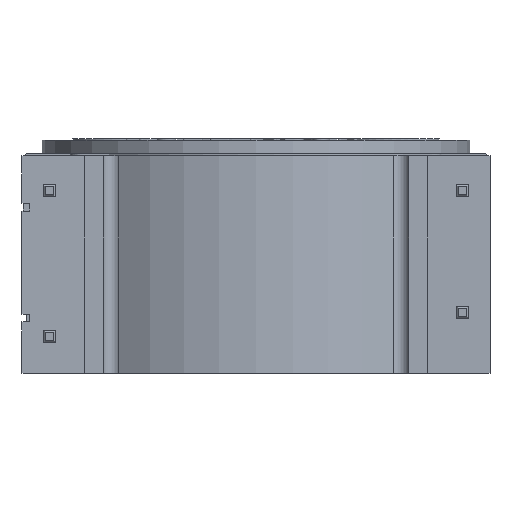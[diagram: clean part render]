
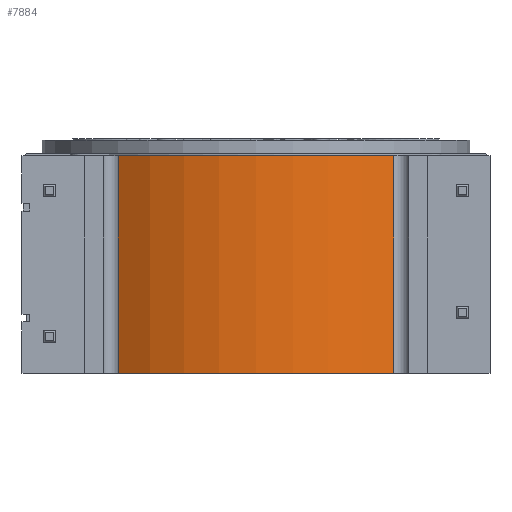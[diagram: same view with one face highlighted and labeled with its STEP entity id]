
A CAD part, front view. The second image highlights one B-rep face of the part: STEP entity #7884.
In plain terms, the highlighted cylindrical face has radius 12.5 mm (diameter 25 mm), a partial arc.
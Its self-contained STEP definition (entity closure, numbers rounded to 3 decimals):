
#469=CIRCLE('',#8220,12.5);
#474=CIRCLE('',#8227,12.5);
#499=CYLINDRICAL_SURFACE('',#8240,12.5);
#919=FACE_OUTER_BOUND('',#1352,.T.);
#1352=EDGE_LOOP('',(#6760,#6761,#6762,#6763));
#2101=LINE('',#13190,#2857);
#2102=LINE('',#13192,#2858);
#2857=VECTOR('',#9619,11.5);
#2858=VECTOR('',#9622,11.5);
#3561=VERTEX_POINT('',#13126);
#3562=VERTEX_POINT('',#13128);
#3579=VERTEX_POINT('',#13165);
#3580=VERTEX_POINT('',#13167);
#4621=EDGE_CURVE('',#3561,#3562,#469,.T.);
#4640=EDGE_CURVE('',#3580,#3579,#474,.T.);
#4652=EDGE_CURVE('',#3562,#3579,#2101,.T.);
#4653=EDGE_CURVE('',#3580,#3561,#2102,.T.);
#6760=ORIENTED_EDGE('',*,*,#4640,.T.);
#6761=ORIENTED_EDGE('',*,*,#4652,.F.);
#6762=ORIENTED_EDGE('',*,*,#4621,.F.);
#6763=ORIENTED_EDGE('',*,*,#4653,.F.);
#7884=ADVANCED_FACE('',(#919),#499,.T.);
#8220=AXIS2_PLACEMENT_3D('',#13129,#9562,#9563);
#8227=AXIS2_PLACEMENT_3D('',#13168,#9590,#9591);
#8240=AXIS2_PLACEMENT_3D('',#13196,#9627,#9628);
#9562=DIRECTION('center_axis',(0.,0.,-1.));
#9563=DIRECTION('ref_axis',(1.,0.,0.));
#9590=DIRECTION('center_axis',(0.,0.,-1.));
#9591=DIRECTION('ref_axis',(1.,0.,0.));
#9619=DIRECTION('',(0.,0.,1.));
#9622=DIRECTION('',(0.,0.,-1.));
#9627=DIRECTION('center_axis',(0.,0.,1.));
#9628=DIRECTION('ref_axis',(1.,0.,0.));
#13126=CARTESIAN_POINT('',(7.212,-9.71,-0.405));
#13128=CARTESIAN_POINT('',(-7.212,-9.71,-0.405));
#13129=CARTESIAN_POINT('Origin',(0.,0.5,-0.405));
#13165=CARTESIAN_POINT('',(-7.212,-9.71,10.995));
#13167=CARTESIAN_POINT('',(7.212,-9.71,10.995));
#13168=CARTESIAN_POINT('Origin',(0.,0.5,10.995));
#13190=CARTESIAN_POINT('',(-7.212,-9.71,-0.405));
#13192=CARTESIAN_POINT('',(7.212,-9.71,11.095));
#13196=CARTESIAN_POINT('Origin',(0.,0.5,-0.405));
